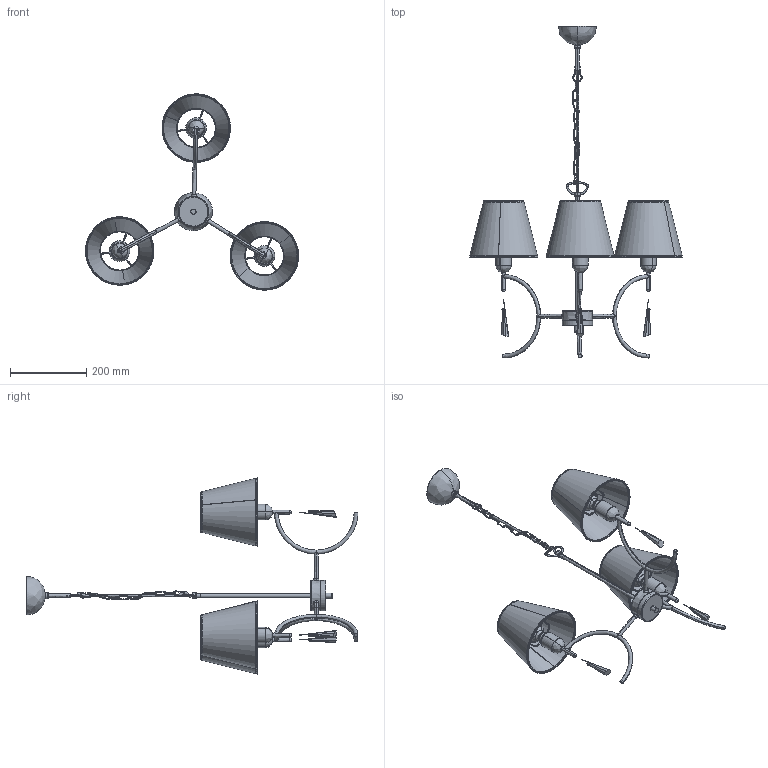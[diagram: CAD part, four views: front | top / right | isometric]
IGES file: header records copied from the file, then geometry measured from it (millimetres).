
Start section: SolidWorks IGES file using analytic representation for surfaces
Bounding box: 560.63 x 872.81 x 516.07 mm (x, y, z)
Surface area: 712415.2 mm2 (no closed solid volume)
Topology: 0 solids, 0 shells, 946 faces, 13794 edges, 13785 vertices
Faces by surface type: bspline 542, revolution 404
